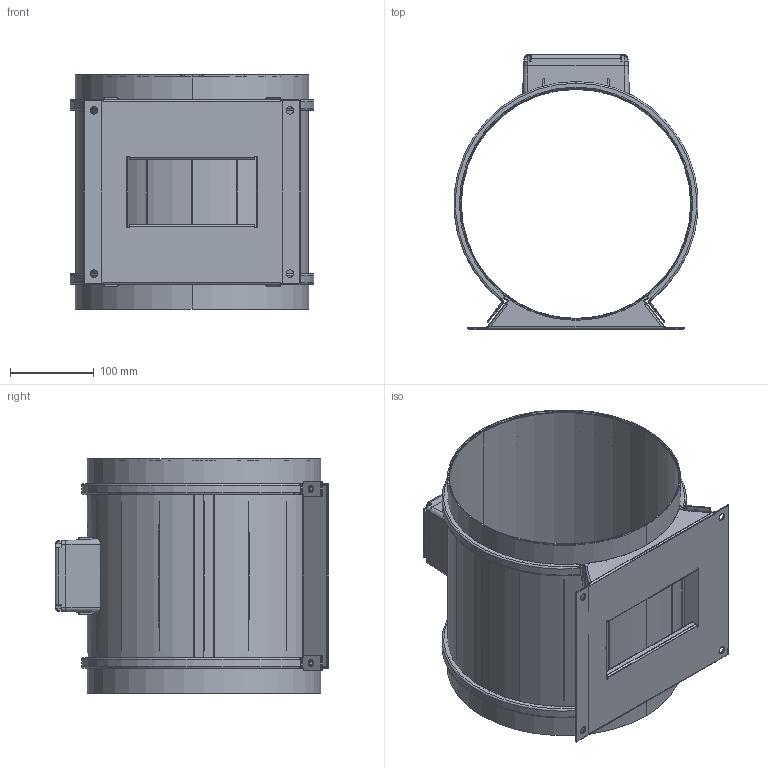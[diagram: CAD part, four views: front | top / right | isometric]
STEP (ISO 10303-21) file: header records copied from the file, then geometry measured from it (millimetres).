
FILE_DESCRIPTION (( 'STEP AP203' ), '1' );
FILE_NAME ('130701-00_EM280EC01.STEP', '2014-08-27T13:44:47', ( '' ), ( '' ), 'SwSTEP 2.0', 'SolidWorks 2012', '' );
FILE_SCHEMA (( 'CONFIG_CONTROL_DESIGN' ));
Length unit declared in the file: millimetre
Products named in the file (1): 130701-00_EM280EC01
Bounding box: 291.42 x 327.55 x 280 mm (x, y, z)
Surface area: 745864.3 mm2 (no closed solid volume)
Topology: 0 solids, 20 shells, 685 faces, 2891 edges, 2088 vertices
Faces by surface type: cylinder 260, plane 229, bspline 93, torus 62, cone 41
Entity records: 41155 total; most frequent: CARTESIAN_POINT 19189, ORIENTED_EDGE 4251, DIRECTION 4195, EDGE_CURVE 2887, VERTEX_POINT 2088, VECTOR 1453, LINE 1453, AXIS2_PLACEMENT_3D 1371
